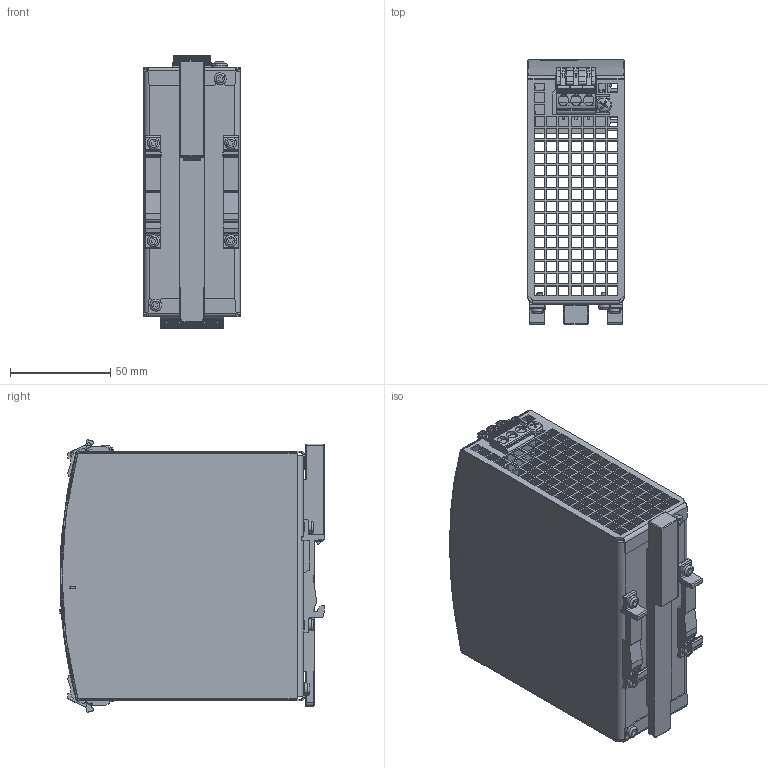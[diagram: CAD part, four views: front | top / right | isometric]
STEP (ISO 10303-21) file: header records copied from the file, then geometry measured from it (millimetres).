
FILE_DESCRIPTION (( 'STEP AP214' ), '1' );
FILE_NAME ('1022482_000.STEP', '2025-02-03T10:19:50', ( '' ), ( '' ), 'SwSTEP 2.0', 'SolidWorks 2024', '' );
FILE_SCHEMA (( 'AUTOMOTIVE_DESIGN' ));
Length unit declared in the file: millimetre
Products named in the file (13): 1020107_000_BRep_Config; 1018355_000_Feat_Config; 1018322_000_Feat_Config; 1022482_000; 1018357_000_Feat_Config; 1015117_000_BRep_Config; 1020106_000_BRep_Config; 1014384_000_Feat_Config; 1018350_000; 1020110_000; 1015059_000_BRep_Config; 1018360_000_Feat_Config; 1022483_000_EL-457.940.00
Assembly tree (18 placements, depth 2):
  1022482_000
    1020107_000_BRep_Config
    1020106_000_BRep_Config
    1015059_000_BRep_Config
    1015117_000_BRep_Config
    1020110_000
    1018355_000_Feat_Config
    1018350_000  x2
    1018360_000_Feat_Config  x6
    1018322_000_Feat_Config
    1022483_000_EL-457.940.00
    1018357_000_Feat_Config
    1014384_000_Feat_Config
Bounding box: 48.03 x 131.58 x 135.8 mm (x, y, z)
Volume: 90167.4 mm3; surface area: 135912.7 mm2
Topology: 17 solids, 135 shells, 7299 faces, 20857 edges, 13821 vertices
Faces by surface type: plane 4749, cylinder 1751, torus 407, cone 189, bspline 116, sphere 87
Entity records: 244659 total; most frequent: CARTESIAN_POINT 55344, ORIENTED_EDGE 40829, DIRECTION 37644, EDGE_CURVE 20421, VECTOR 14830, LINE 14830, VERTEX_POINT 13545, AXIS2_PLACEMENT_3D 11407
